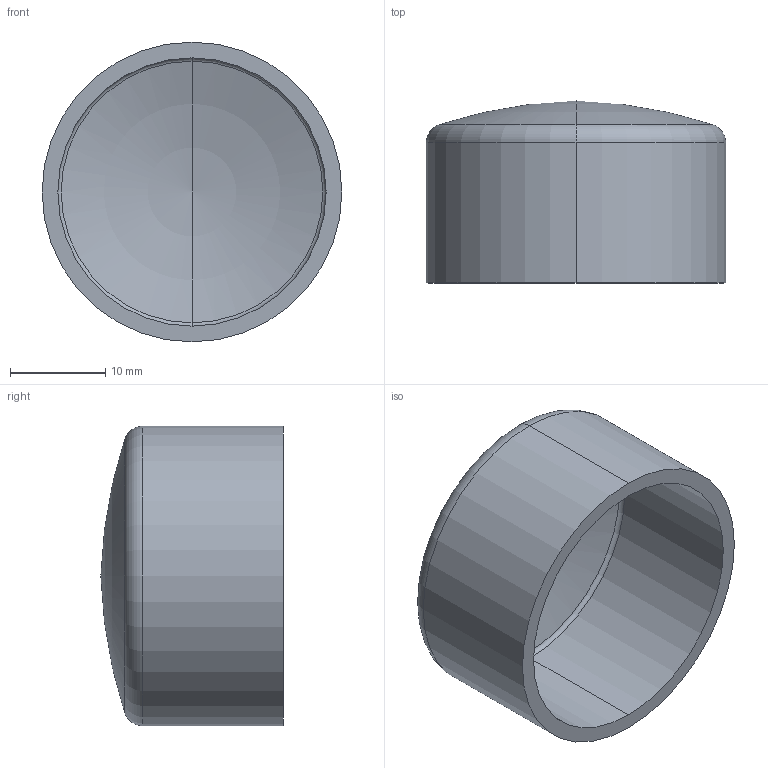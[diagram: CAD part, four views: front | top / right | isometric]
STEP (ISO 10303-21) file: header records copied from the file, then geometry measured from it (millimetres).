
FILE_DESCRIPTION (( 'STEP AP203' ), '1' );
FILE_NAME ('015.300.008.STEP', '2016-10-24T08:52:11', ( '' ), ( '' ), 'SwSTEP 2.0', 'SolidWorks 2016', '' );
FILE_SCHEMA (( 'CONFIG_CONTROL_DESIGN' ));
Length unit declared in the file: millimetre
Products named in the file (1): 015.300.008
Bounding box: 31.5 x 19.15 x 31.5 mm (x, y, z)
Volume: 3569.5 mm3; surface area: 4483.1 mm2
Topology: 1 solids, 1 shells, 13 faces, 28 edges, 14 vertices
Faces by surface type: torus 8, cylinder 4, plane 1
Entity records: 407 total; most frequent: DIRECTION 72, CARTESIAN_POINT 52, ORIENTED_EDGE 48, AXIS2_PLACEMENT_3D 34, EDGE_CURVE 24, CIRCLE 20, VERTEX_POINT 14, EDGE_LOOP 14
